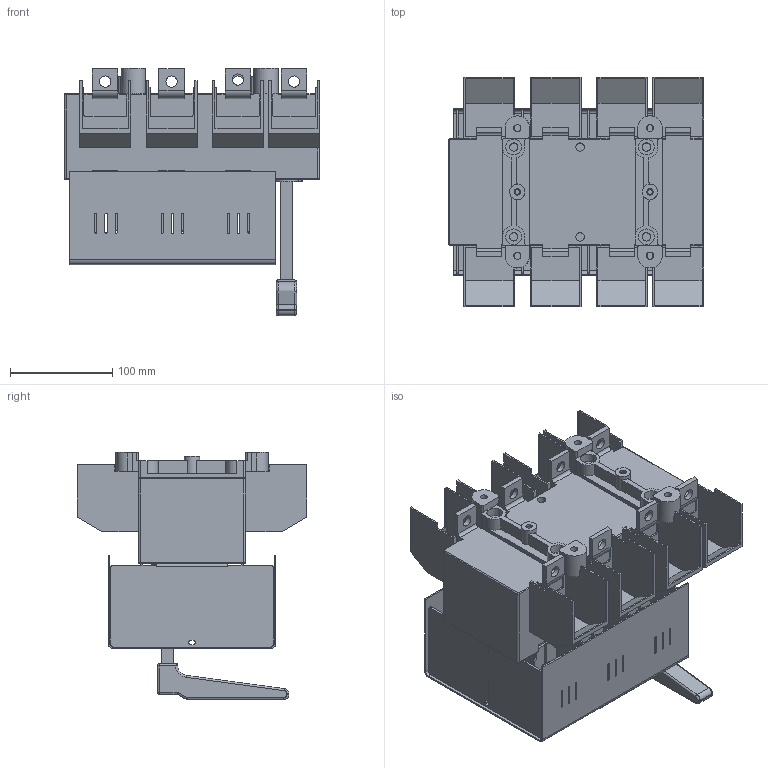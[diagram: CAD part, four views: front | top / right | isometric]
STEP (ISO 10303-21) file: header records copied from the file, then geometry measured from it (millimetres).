
FILE_DESCRIPTION(/* description */ (''),/* implementation_level */ '2;1');
FILE_NAME(/* name */ 'RAB 2 P3 NC-R z oslona zaciskow.stp',/* time_stamp */ '2021-08-19T14:01:26+02:00',/* author */ (''),/* organization */ (''),/* preprocessor_version */ 'ST-DEVELOPER v18.1',/* originating_system */ 'SIEMENS PLM Software NX 1965',/* authorisation */ '');
FILE_SCHEMA (('AUTOMOTIVE_DESIGN { 1 0 10303 214 3 1 1 1 }'));
Length unit declared in the file: millimetre
Products named in the file (1): RAB 2 P3 NC-R z oslona zaciskow
Bounding box: 250 x 225 x 242.3 mm (x, y, z)
Volume: 2645946.3 mm3; surface area: 620624.3 mm2
Topology: 1 solids, 7 shells, 1420 faces, 3959 edges, 2563 vertices
Faces by surface type: plane 965, cylinder 433, bspline 8, torus 8, sphere 6
Full cylindrical faces by diameter (mm): 4.8 x2, 5.2 x18, 6.2 x2, 7 x4, 8.2 x6, 11 x8, 14 x4, 15 x2, 15.5 x4
Entity records: 45401 total; most frequent: CARTESIAN_POINT 8161, ORIENTED_EDGE 7790, DIRECTION 7631, EDGE_CURVE 3895, LINE 2957, VECTOR 2957, VERTEX_POINT 2552, AXIS2_PLACEMENT_3D 2337
